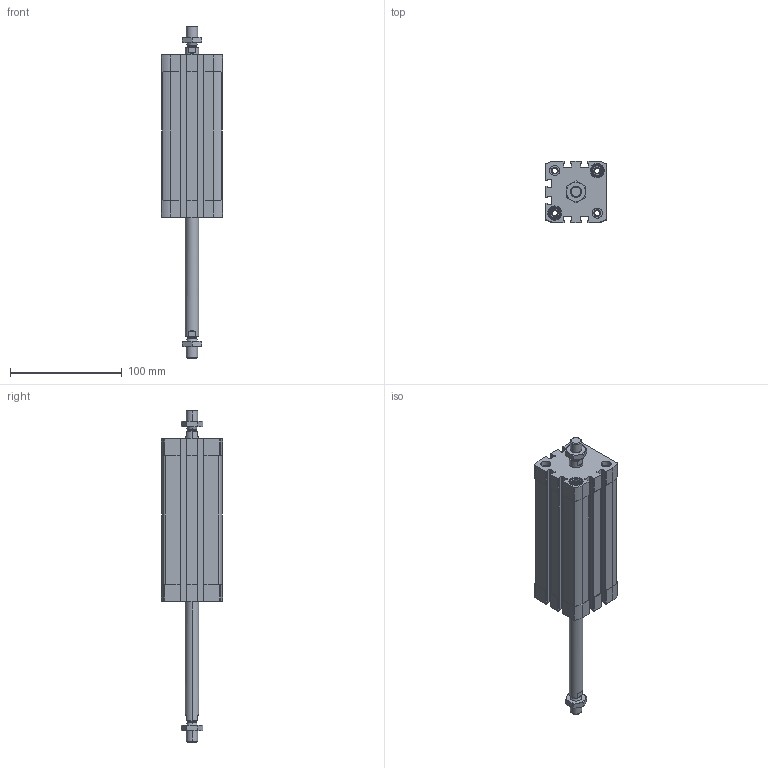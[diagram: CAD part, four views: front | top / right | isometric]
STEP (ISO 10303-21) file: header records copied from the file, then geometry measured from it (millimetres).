
FILE_DESCRIPTION (( 'STEP AP203' ), '1' );
FILE_NAME ('CCN40-100-P.STEP', '2020-06-22T18:54:49', ( '' ), ( '' ), 'SwSTEP 2.0', 'SolidWorks 2019', '' );
FILE_SCHEMA (( 'CONFIG_CONTROL_DESIGN' ));
Length unit declared in the file: millimetre
Products named in the file (1): CCN40-100-P
Bounding box: 54.5 x 54.5 x 296.6 mm (x, y, z)
Volume: 276605 mm3; surface area: 93031.9 mm2
Topology: 4 solids, 4 shells, 536 faces, 1418 edges, 922 vertices
Faces by surface type: plane 288, cylinder 180, cone 60, torus 8
Entity records: 17391 total; most frequent: CARTESIAN_POINT 3745, DIRECTION 2902, ORIENTED_EDGE 2836, EDGE_CURVE 1418, AXIS2_PLACEMENT_3D 1071, VERTEX_POINT 922, LINE 760, VECTOR 760
